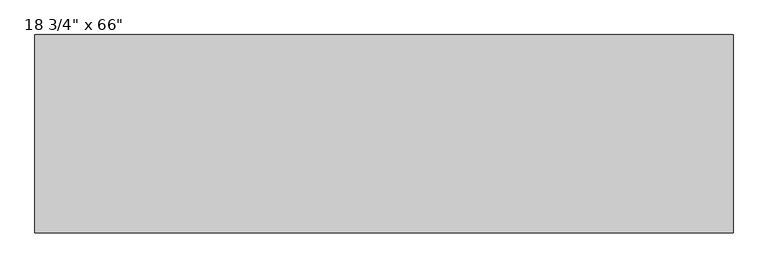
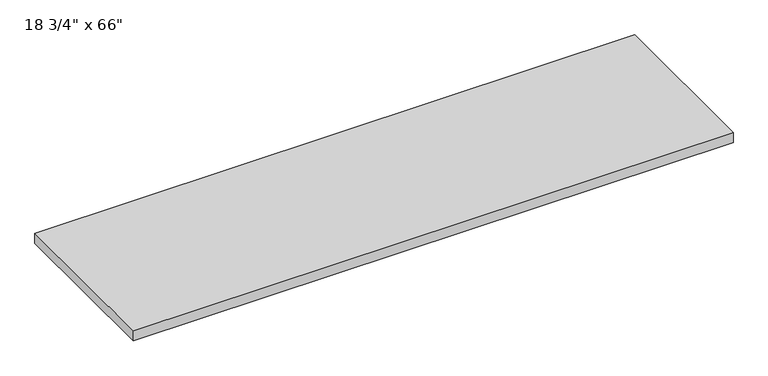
"""IFC4 building model written with IfcOpenShell, lengths in millimetres: furniture geometry."""

from ifc_helpers import new_model, si_unit, frame, origin, place, context, project, spatial, polyline, outline, extrude, source, transform, mapped, element, save


def furniture_7700fe12(model_context):
    return source(origin(), model_context, "Body", "SweptSolid", [
        extrude(outline(polyline([(838.2, -238.125), (-838.2, -238.125), (-838.2, 238.125), (838.2, 238.125), (838.2, -238.125)])), frame((0.0, 0.0, 1011.2375), z_axis=(0.0, 0.0, 1.0), x_axis=(1.0, 0.0, 0.0)), (0.0, 0.0, 1.0), 30.1625),
    ])


if __name__ == "__main__":
    model = new_model("IFC4")
    model_context = context("Model", 3, world=origin())
    ifc_project = project(units=[si_unit("LENGTHUNIT", "METRE", prefix="MILLI")], contexts=[model_context])
    site = spatial("IfcSite", under=ifc_project)
    building = spatial("IfcBuilding", under=site)
    placement = place(None, origin())
    furniture_shape = furniture_7700fe12(model_context)
    element("IfcFurniture", 1, ObjectType="Haworth_XSeries-Common_Top : 18 3/4\" x 66\"", at=placement, inside=building, context=model_context, shape_type="MappedRepresentation", body=[
        mapped(furniture_shape, transform((0.0, 0.0, 0.0), x_axis=(1.0, 0.0, 0.0), y_axis=(0.0, 1.0, 0.0), z_axis=(0.0, 0.0, 1.0))),
    ])
    save(model, "model.ifc")
